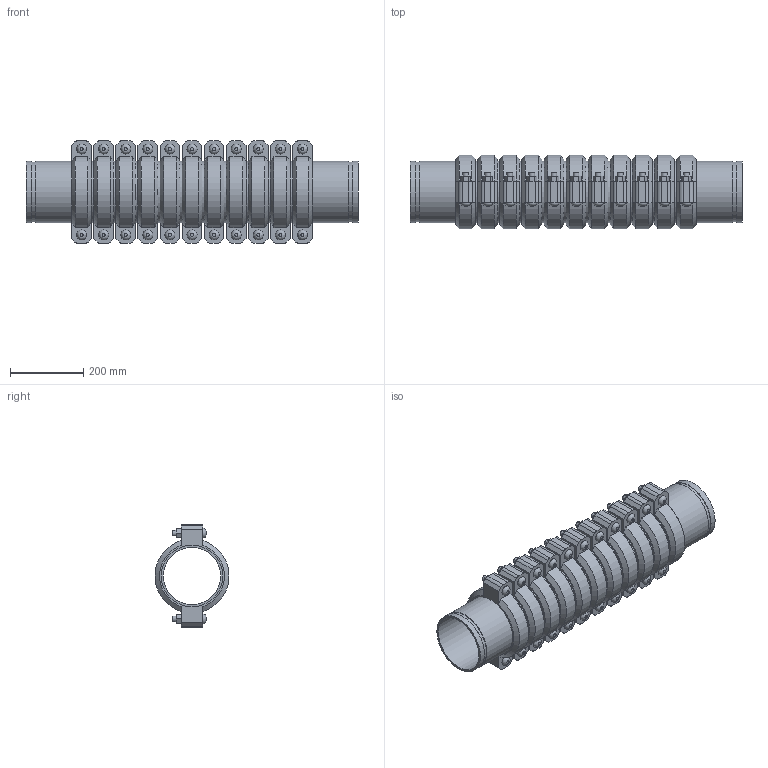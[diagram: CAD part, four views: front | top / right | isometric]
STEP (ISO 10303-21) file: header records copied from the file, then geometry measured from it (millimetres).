
FILE_DESCRIPTION(/* description */ ('VIC SS EXPANSION JOINT 11 COUPLINGS COMPRESSED STYLE 155P (OGS) (POTABLE WATER) ','CAx-IF Rec.Pracs.---Representation and Presentation of Product Manufacturing Information (PMI)---4.0---2014-10-13'),/* implementation_level */ '2;1');
FILE_NAME(/* name */ 'C:\Users\kkamble\AppData\Roaming\Autodesk\ApplicationPlugins\Victaulic.Temp\A148\Victaulic_SS_Expansion Joint_Compressed_11 Couplings_Style 155P (OGS)-Potable Water_11 Coup_Comp_6 (150).stp',/* time_stamp */ '2021-07-16T17:07:00+06:00',/* author */ ('kkamble'),/* organization */ ('Victaulic'),/* preprocessor_version */ 'ST-DEVELOPER v17.2',/* originating_system */ 'Autodesk Inventor 2019',/* authorisation */ '');
FILE_SCHEMA (('AP242_MANAGED_MODEL_BASED_3D_ENGINEERING_MIM_LF { 1 0 10303 442 1 1 4 }'));
Length unit declared in the file: inch
Products named in the file (4): 155P-06.0; Nipple-06.0; Nipple-06.0_1; 075-06.0
Assembly tree (23 placements, depth 2):
  155P-06.0
    Nipple-06.0  x2
    Nipple-06.0_1  x10
    075-06.0  x11
Bounding box: 908.56 x 202.46 x 281.18 mm (x, y, z)
Volume: 10571557.5 mm3; surface area: 2257721 mm2
Topology: 23 solids, 45 shells, 727 faces, 1757 edges, 1234 vertices
Faces by surface type: plane 446, cylinder 215, cone 44, bspline 22
Full cylindrical faces by diameter (mm): 15.875 x44, 17.424 x22, 157.15 x12, 163.957 x24, 168.275 x47
Entity records: 2785 total; most frequent: CARTESIAN_POINT 493, DIRECTION 471, ORIENTED_EDGE 374, AXIS2_PLACEMENT_3D 190, EDGE_CURVE 187, VERTEX_POINT 134, EDGE_LOOP 101, LINE 91
